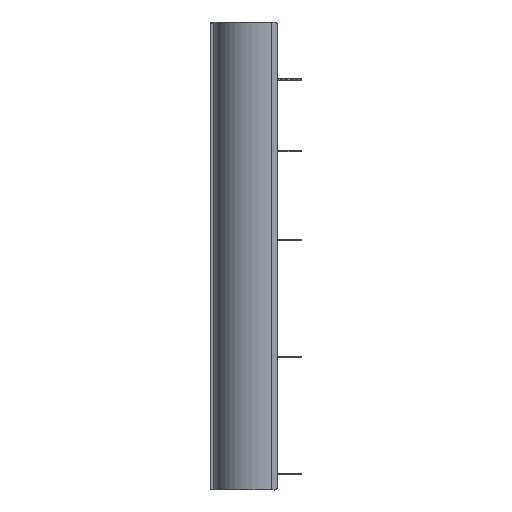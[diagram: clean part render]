
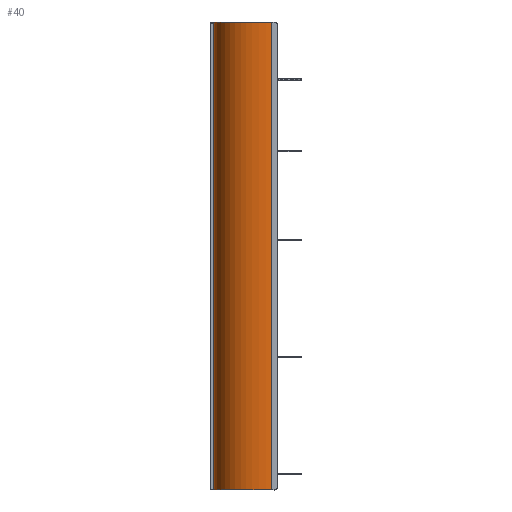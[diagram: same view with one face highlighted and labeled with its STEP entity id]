
A CAD part, left-side view. The second image highlights one B-rep face of the part: STEP entity #40.
In plain terms, the highlighted free-form (B-spline) face has degree [3, 1] with [4, 2] control points.
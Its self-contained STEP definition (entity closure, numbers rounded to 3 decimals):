
#40=ADVANCED_FACE('',(#219),#2453,.T.);
#219=FACE_OUTER_BOUND('',#398,.T.);
#398=EDGE_LOOP('',(#621,#622,#623,#624));
#621=ORIENTED_EDGE('',*,*,#1382,.F.);
#622=ORIENTED_EDGE('',*,*,#1386,.T.);
#623=ORIENTED_EDGE('',*,*,#1368,.T.);
#624=ORIENTED_EDGE('',*,*,#1385,.F.);
#1368=EDGE_CURVE('',#2163,#2165,#1990,.T.);
#1382=EDGE_CURVE('',#2171,#2172,#1996,.T.);
#1385=EDGE_CURVE('',#2172,#2165,#1997,.T.);
#1386=EDGE_CURVE('',#2171,#2163,#1998,.T.);
#1990=B_SPLINE_CURVE_WITH_KNOTS('',1,(#6025,#6026),.UNSPECIFIED.,.F.,.F.,
(2,2),(0.5,1599.5),.UNSPECIFIED.);
#1996=B_SPLINE_CURVE_WITH_KNOTS('',1,(#6065,#6066),.UNSPECIFIED.,.F.,.F.,
(2,2),(0.5,1599.5),.UNSPECIFIED.);
#1997=B_SPLINE_CURVE_WITH_KNOTS('',3,(#6071,#6072,#6073,#6074),
 .UNSPECIFIED.,.F.,.F.,(4,4),(0.,320.249),.UNSPECIFIED.);
#1998=B_SPLINE_CURVE_WITH_KNOTS('',3,(#6075,#6076,#6077,#6078),
 .UNSPECIFIED.,.F.,.F.,(4,4),(0.,320.249),.UNSPECIFIED.);
#2163=VERTEX_POINT('',#5935);
#2165=VERTEX_POINT('',#5937);
#2171=VERTEX_POINT('',#5943);
#2172=VERTEX_POINT('',#5944);
#2453=B_SPLINE_SURFACE_WITH_KNOTS('',3,1,((#2861,#2862),(#2863,#2864),(#2865,
#2866),(#2867,#2868)),.UNSPECIFIED.,.F.,.F.,.F.,(4,4),(2,2),(-168.102,
232.5),(0.,1600.),.UNSPECIFIED.);
#2861=CARTESIAN_POINT('',(-2436.,177.,100.));
#2862=CARTESIAN_POINT('',(-2436.,177.,1700.));
#2863=CARTESIAN_POINT('',(-2619.765,177.,100.));
#2864=CARTESIAN_POINT('',(-2619.765,177.,1700.));
#2865=CARTESIAN_POINT('',(-2636.,44.,100.));
#2866=CARTESIAN_POINT('',(-2636.,44.,1700.));
#2867=CARTESIAN_POINT('',(-2636.,-20.,100.));
#2868=CARTESIAN_POINT('',(-2636.,-20.,1700.));
#5935=CARTESIAN_POINT('',(-2636.,-20.,100.5));
#5937=CARTESIAN_POINT('',(-2636.,-20.,1699.5));
#5943=CARTESIAN_POINT('',(-2436.,177.,100.5));
#5944=CARTESIAN_POINT('',(-2436.,177.,1699.5));
#6025=CARTESIAN_POINT('',(-2636.,-20.,100.5));
#6026=CARTESIAN_POINT('',(-2636.,-20.,1699.5));
#6065=CARTESIAN_POINT('',(-2436.,177.,100.5));
#6066=CARTESIAN_POINT('',(-2436.,177.,1699.5));
#6071=CARTESIAN_POINT('',(-2436.,177.,1699.5));
#6072=CARTESIAN_POINT('',(-2619.765,177.,1699.5));
#6073=CARTESIAN_POINT('',(-2636.,44.,1699.5));
#6074=CARTESIAN_POINT('',(-2636.,-20.,1699.5));
#6075=CARTESIAN_POINT('',(-2436.,177.,100.5));
#6076=CARTESIAN_POINT('',(-2619.765,177.,100.5));
#6077=CARTESIAN_POINT('',(-2636.,44.,100.5));
#6078=CARTESIAN_POINT('',(-2636.,-20.,100.5));
